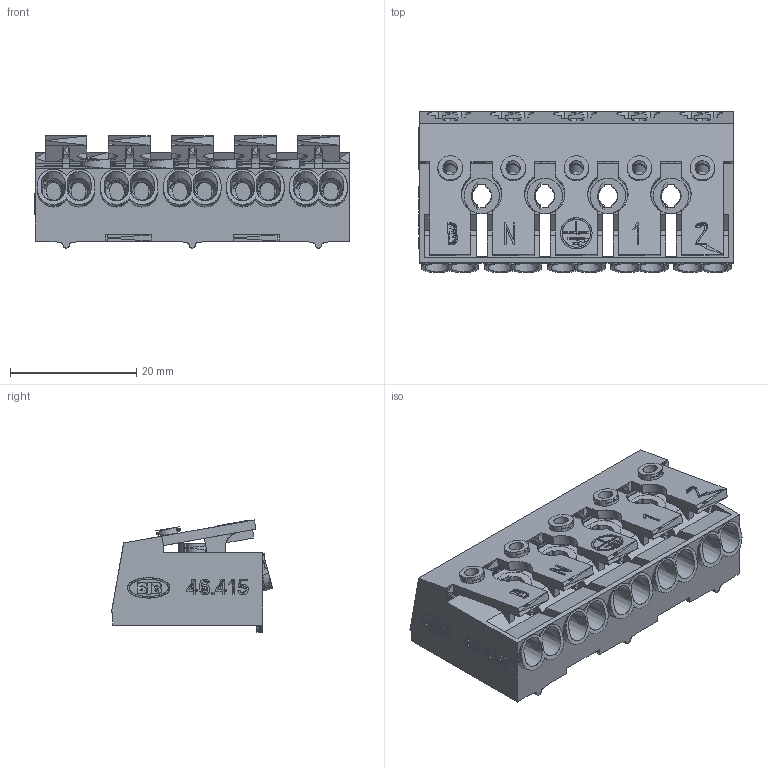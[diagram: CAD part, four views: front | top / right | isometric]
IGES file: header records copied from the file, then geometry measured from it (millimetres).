
Global section: file name: C:\coretechnologie2011\in/006YK0HY03.igs; native system: CT CoreTechnologie 3D Evolution; preprocessor: 2006; author: assmuth; date: 1110517.083509; units: millimetre
Bounding box: 49.9 x 25.55 x 17.78 mm (x, y, z)
Surface area: 9015.3 mm2 (no closed solid volume)
Topology: 0 solids, 0 shells, 690 faces, 3616 edges, 3532 vertices
Faces by surface type: bspline 690
